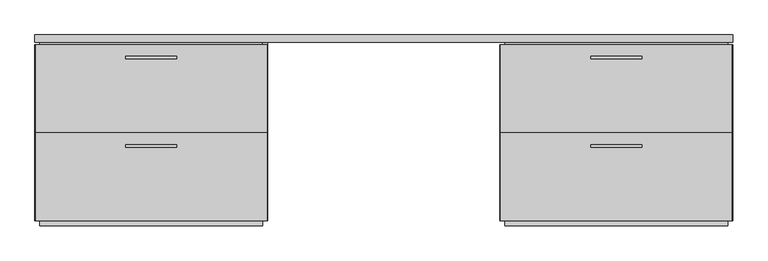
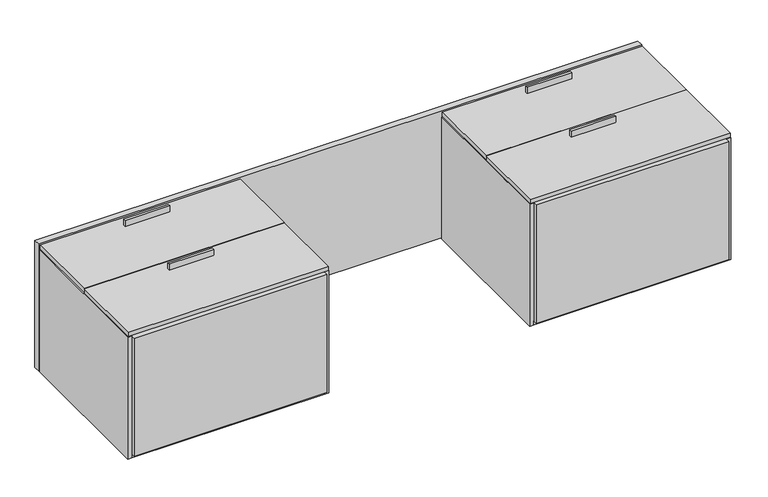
"""IFC4 building model written with IfcOpenShell, lengths in millimetres: proxy geometry, BASYS^OFFICE 4_CREDENZA 3B 29-108 FILE FKF STORAGE."""

from ifc_helpers import new_model, si_unit, frame, origin, origin_with_axes, place, context, project, spatial, polyline, outline, extrude, source, transform, mapped, element, save


def generic_models_c0b92d67(model_context):
    return source(origin(), model_context, "Body", "SweptSolid", [
        extrude(outline(polyline([(356.2, 665.4), (558.2, 665.4), (558.2, 655.4), (356.2, 655.4), (356.2, 665.4)])), frame((0.0, 0.0, 609.6), z_axis=(0.0, 0.0, 1.0), x_axis=(1.0, 0.0, 0.0)), (0.0, 0.0, 1.0), 30.0),
        extrude(outline(polyline([(2185.0, 318.134375), (2387.0, 318.134375), (2387.0, 308.134375), (2185.0, 308.134375), (2185.0, 318.134375)])), frame((0.0, 0.0, 609.6), z_axis=(0.0, 0.0, 1.0), x_axis=(1.0, 0.0, 0.0)), (0.0, 0.0, 1.0), 30.0),
        extrude(outline(polyline([(2185.0, 665.4), (2387.0, 665.4), (2387.0, 655.4), (2185.0, 655.4), (2185.0, 665.4)])), frame((0.0, 0.0, 609.6), z_axis=(0.0, 0.0, 1.0), x_axis=(1.0, 0.0, 0.0)), (0.0, 0.0, 1.0), 30.0),
        extrude(outline(polyline([(1847.85, 720.725), (2724.15, 720.725), (2724.15, 692.15), (1847.85, 692.15), (1847.85, 720.725)])), frame((0.0, 0.0, 19.05), z_axis=(0.0, 0.0, 1.0), x_axis=(1.0, 0.0, 0.0)), (0.0, 0.0, 1.0), 568.325),
        extrude(outline(polyline([(2724.15, 19.05), (1847.85, 19.05), (1847.85, 711.2), (2724.15, 711.2), (2724.15, 19.05)])), origin_with_axes(), (0.0, 0.0, 1.0), 19.05),
        extrude(outline(polyline([(912.01875, 711.2), (912.01875, 366.315625), (2.38125, 366.315625), (2.38125, 711.2), (912.01875, 711.2)])), frame((0.0, 0.0, 590.55), z_axis=(0.0, 0.0, 1.0), x_axis=(1.0, 0.0, 0.0)), (0.0, 0.0, 1.0), 19.05),
        extrude(outline(polyline([(2740.81875, 711.2), (2740.81875, 366.315625), (1831.18125, 366.315625), (1831.18125, 711.2), (2740.81875, 711.2)])), frame((0.0, 0.0, 590.55), z_axis=(0.0, 0.0, 1.0), x_axis=(1.0, 0.0, 0.0)), (0.0, 0.0, 1.0), 19.05),
        extrude(outline(polyline([(2.38125, 19.05), (2.38125, 363.934375), (912.01875, 363.934375), (912.01875, 19.05), (2.38125, 19.05)])), frame((0.0, 0.0, 590.55), z_axis=(0.0, 0.0, 1.0), x_axis=(1.0, 0.0, 0.0)), (0.0, 0.0, 1.0), 19.05),
        extrude(outline(polyline([(1831.18125, 363.934375), (2740.81875, 363.934375), (2740.81875, 19.05), (1831.18125, 19.05), (1831.18125, 363.934375)])), frame((0.0, 0.0, 590.55), z_axis=(0.0, 0.0, 1.0), x_axis=(1.0, 0.0, 0.0)), (0.0, 0.0, 1.0), 19.05),
        extrude(outline(polyline([(914.4, 19.05), (895.35, 19.05), (895.35, 720.725), (914.4, 720.725), (914.4, 19.05)])), origin_with_axes(), (0.0, 0.0, 1.0), 587.375),
        extrude(outline(polyline([(1847.85, 19.05), (1828.8, 19.05), (1828.8, 711.2), (1847.85, 711.2), (1847.85, 19.05)])), origin_with_axes(), (0.0, 0.0, 1.0), 587.375),
        extrude(outline(polyline([(0.0, 711.2), (19.05, 711.2), (19.05, 19.05), (0.0, 19.05), (0.0, 711.2)])), origin_with_axes(), (0.0, 0.0, 1.0), 587.375),
        extrude(outline(polyline([(2724.15, 711.2), (2743.2, 711.2), (2743.2, 19.05), (2724.15, 19.05), (2724.15, 711.2)])), origin_with_axes(), (0.0, 0.0, 1.0), 587.375),
        extrude(outline(polyline([(19.05, 720.725), (895.35, 720.725), (895.35, 692.15), (19.05, 692.15), (19.05, 720.725)])), frame((0.0, 0.0, 19.05), z_axis=(0.0, 0.0, 1.0), x_axis=(1.0, 0.0, 0.0)), (0.0, 0.0, 1.0), 568.325),
        extrude(outline(polyline([(895.35, 19.05), (19.05, 19.05), (19.05, 711.2), (895.35, 711.2), (895.35, 19.05)])), origin_with_axes(), (0.0, 0.0, 1.0), 19.05),
        extrude(outline(polyline([(2743.2, 720.725), (0.0, 720.725), (0.0, 749.3), (2743.2, 749.3), (2743.2, 720.725)])), origin_with_axes(), (0.0, 0.0, 1.0), 609.6),
        extrude(outline(polyline([(895.35, 38.1), (895.35, 0.0), (19.05, 0.0), (19.05, 38.1), (895.35, 38.1)])), frame((0.0, 0.0, 19.05), z_axis=(0.0, 0.0, 1.0), x_axis=(1.0, 0.0, 0.0)), (0.0, 0.0, 1.0), 568.325),
        extrude(outline(polyline([(2724.15, 38.1), (2724.15, 0.0), (1847.85, 0.0), (1847.85, 38.1), (2724.15, 38.1)])), frame((0.0, 0.0, 19.05), z_axis=(0.0, 0.0, 1.0), x_axis=(1.0, 0.0, 0.0)), (0.0, 0.0, 1.0), 568.325),
        extrude(outline(polyline([(356.2, 318.134375), (558.2, 318.134375), (558.2, 308.134375), (356.2, 308.134375), (356.2, 318.134375)])), frame((0.0, 0.0, 609.6), z_axis=(0.0, 0.0, 1.0), x_axis=(1.0, 0.0, 0.0)), (0.0, 0.0, 1.0), 30.0),
    ])


if __name__ == "__main__":
    model = new_model("IFC4")
    model_context = context("Model", 3, world=origin())
    ifc_project = project(units=[si_unit("LENGTHUNIT", "METRE", prefix="MILLI")], contexts=[model_context])
    site = spatial("IfcSite", under=ifc_project)
    building = spatial("IfcBuilding", under=site)
    placement = place(None, origin())
    generic_models_shape = generic_models_c0b92d67(model_context)
    element("IfcBuildingElementProxy", 1, Name="BASYS^OFFICE 4_CREDENZA 3B 29-108 FILE FKF STORAGE", ObjectType="BASYS^OFFICE 4_CREDENZA 3B 29-108 FILE FKF STORAGE", at=placement, inside=building, context=model_context, shape_type="MappedRepresentation", body=[
        mapped(generic_models_shape, transform((0.0, 0.0, 0.0), x_axis=(1.0, 0.0, 0.0), y_axis=(0.0, 1.0, 0.0), z_axis=(0.0, 0.0, 1.0))),
    ])
    save(model, "model.ifc")
